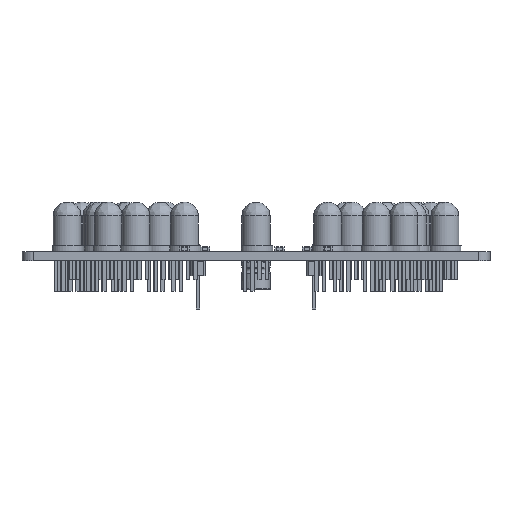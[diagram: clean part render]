
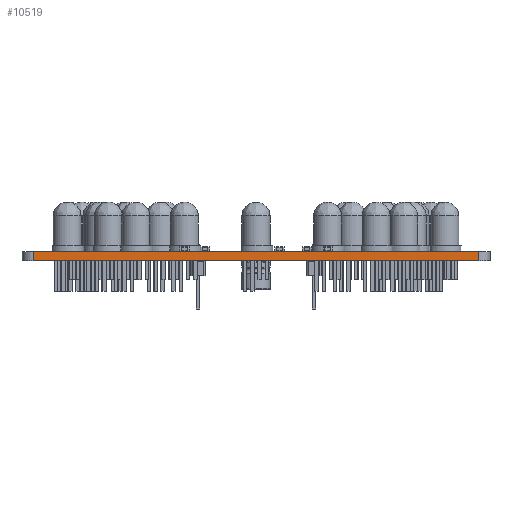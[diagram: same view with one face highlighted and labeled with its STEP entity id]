
A CAD part, front view. The second image highlights one B-rep face of the part: STEP entity #10519.
In plain terms, the highlighted planar face has unit normal (0, -1, 0).
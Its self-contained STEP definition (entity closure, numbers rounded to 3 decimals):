
#6780 = VERTEX_POINT('',#6781);
#6781 = CARTESIAN_POINT('',(15.216,-144.79,0.));
#6788 = EDGE_CURVE('',#6789,#6780,#6791,.T.);
#6789 = VERTEX_POINT('',#6790);
#6790 = CARTESIAN_POINT('',(92.964,-144.79,0.));
#6791 = LINE('',#6792,#6793);
#6792 = CARTESIAN_POINT('',(92.964,-144.79,0.));
#6793 = VECTOR('',#6794,1.);
#6794 = DIRECTION('',(-1.,0.,0.));
#8636 = VERTEX_POINT('',#8637);
#8637 = CARTESIAN_POINT('',(15.216,-144.79,1.6));
#8644 = EDGE_CURVE('',#8645,#8636,#8647,.T.);
#8645 = VERTEX_POINT('',#8646);
#8646 = CARTESIAN_POINT('',(92.964,-144.79,1.6));
#8647 = LINE('',#8648,#8649);
#8648 = CARTESIAN_POINT('',(92.964,-144.79,1.6));
#8649 = VECTOR('',#8650,1.);
#8650 = DIRECTION('',(-1.,0.,0.));
#10491 = EDGE_CURVE('',#6789,#8645,#10492,.T.);
#10492 = LINE('',#10493,#10494);
#10493 = CARTESIAN_POINT('',(92.964,-144.79,0.));
#10494 = VECTOR('',#10495,1.);
#10495 = DIRECTION('',(0.,0.,1.));
#10519 = ADVANCED_FACE('',(#10520),#10531,.T.);
#10520 = FACE_BOUND('',#10521,.T.);
#10521 = EDGE_LOOP('',(#10522,#10523,#10524,#10530));
#10522 = ORIENTED_EDGE('',*,*,#10491,.T.);
#10523 = ORIENTED_EDGE('',*,*,#8644,.T.);
#10524 = ORIENTED_EDGE('',*,*,#10525,.F.);
#10525 = EDGE_CURVE('',#6780,#8636,#10526,.T.);
#10526 = LINE('',#10527,#10528);
#10527 = CARTESIAN_POINT('',(15.216,-144.79,0.));
#10528 = VECTOR('',#10529,1.);
#10529 = DIRECTION('',(0.,0.,1.));
#10530 = ORIENTED_EDGE('',*,*,#6788,.F.);
#10531 = PLANE('',#10532);
#10532 = AXIS2_PLACEMENT_3D('',#10533,#10534,#10535);
#10533 = CARTESIAN_POINT('',(92.964,-144.79,0.));
#10534 = DIRECTION('',(0.,-1.,0.));
#10535 = DIRECTION('',(-1.,0.,0.));
